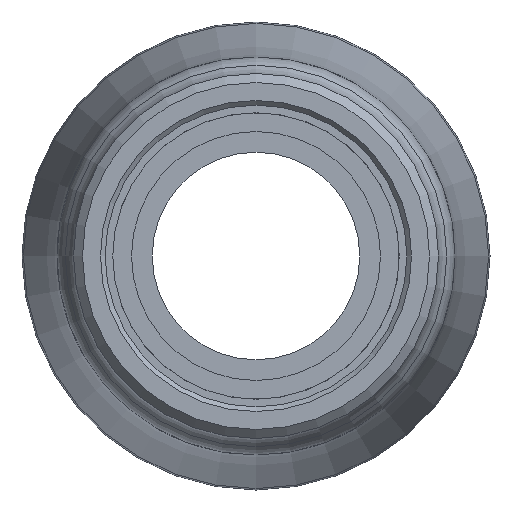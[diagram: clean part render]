
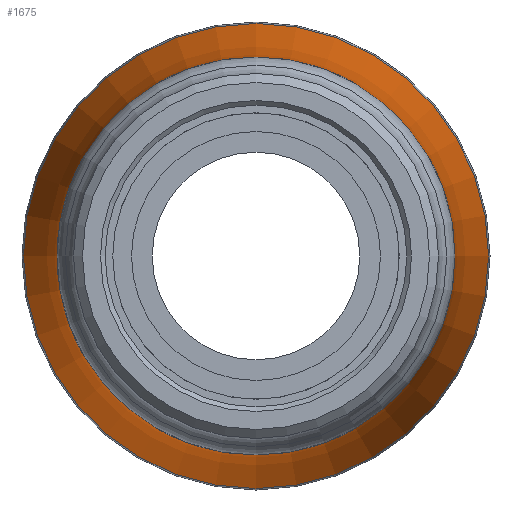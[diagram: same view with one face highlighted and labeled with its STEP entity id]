
A CAD part, left-side view. The second image highlights one B-rep face of the part: STEP entity #1675.
In plain terms, the highlighted toroidal (fillet/blend) face has major radius 131.676 mm and minor radius 111.701 mm.
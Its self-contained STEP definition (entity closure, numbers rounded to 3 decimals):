
#19=TOROIDAL_SURFACE('',#1876,131.676,111.701);
#270=FACE_BOUND('',#508,.T.);
#376=FACE_OUTER_BOUND('',#507,.T.);
#507=EDGE_LOOP('',(#1532));
#508=EDGE_LOOP('',(#1533));
#565=CIRCLE('',#1768,19.975);
#566=CIRCLE('',#1770,23.358);
#738=VERTEX_POINT('',#2832);
#739=VERTEX_POINT('',#2835);
#911=EDGE_CURVE('',#738,#738,#565,.T.);
#912=EDGE_CURVE('',#739,#739,#566,.T.);
#1532=ORIENTED_EDGE('',*,*,#912,.F.);
#1533=ORIENTED_EDGE('',*,*,#911,.T.);
#1675=ADVANCED_FACE('',(#376,#270),#19,.F.);
#1768=AXIS2_PLACEMENT_3D('',#2833,#2075,#2076);
#1770=AXIS2_PLACEMENT_3D('',#2836,#2079,#2080);
#1876=AXIS2_PLACEMENT_3D('',#3779,#2355,#2356);
#2075=DIRECTION('center_axis',(1.,0.,0.));
#2076=DIRECTION('ref_axis',(0.,0.,-1.));
#2079=DIRECTION('center_axis',(1.,0.,0.));
#2080=DIRECTION('ref_axis',(0.,-1.,0.));
#2355=DIRECTION('center_axis',(1.,0.,0.));
#2356=DIRECTION('ref_axis',(0.,0.,-1.));
#2832=CARTESIAN_POINT('',(32.,19.975,0.));
#2833=CARTESIAN_POINT('Origin',(32.,0.,0.));
#2835=CARTESIAN_POINT('',(59.281,23.358,0.));
#2836=CARTESIAN_POINT('Origin',(59.281,0.,0.));
#3779=CARTESIAN_POINT('Origin',(32.,0.,0.));
